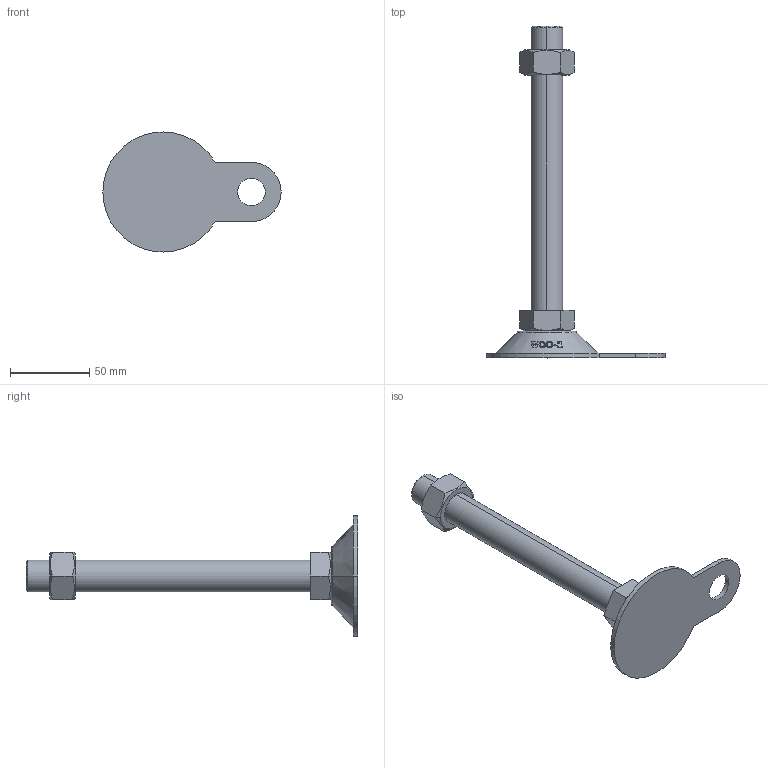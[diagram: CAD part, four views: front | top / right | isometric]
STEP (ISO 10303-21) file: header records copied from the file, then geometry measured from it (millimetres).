
FILE_DESCRIPTION (( 'STEP AP214' ), '1' );
FILE_NAME ('ABL76-M20-180.step', '2021-02-05T04:20:53', ( '' ), ( '' ), 'SwSTEP 2.0', 'SolidWorks 2019', '' );
FILE_SCHEMA (( 'AUTOMOTIVE_DESIGN' ));
Length unit declared in the file: millimetre
Products named in the file (2): ABL76-M20-180
Bounding box: 112.8 x 210 x 76 mm (x, y, z)
Volume: 119426.8 mm3; surface area: 29483.9 mm2
Topology: 2 solids, 2 shells, 128 faces, 325 edges, 212 vertices
Faces by surface type: plane 48, cylinder 38, cone 22, bspline 18, torus 2
Entity records: 5487 total; most frequent: CARTESIAN_POINT 2601, ORIENTED_EDGE 650, DIRECTION 473, EDGE_CURVE 325, VERTEX_POINT 212, AXIS2_PLACEMENT_3D 176, EDGE_LOOP 143, B_SPLINE_CURVE_WITH_KNOTS 140
